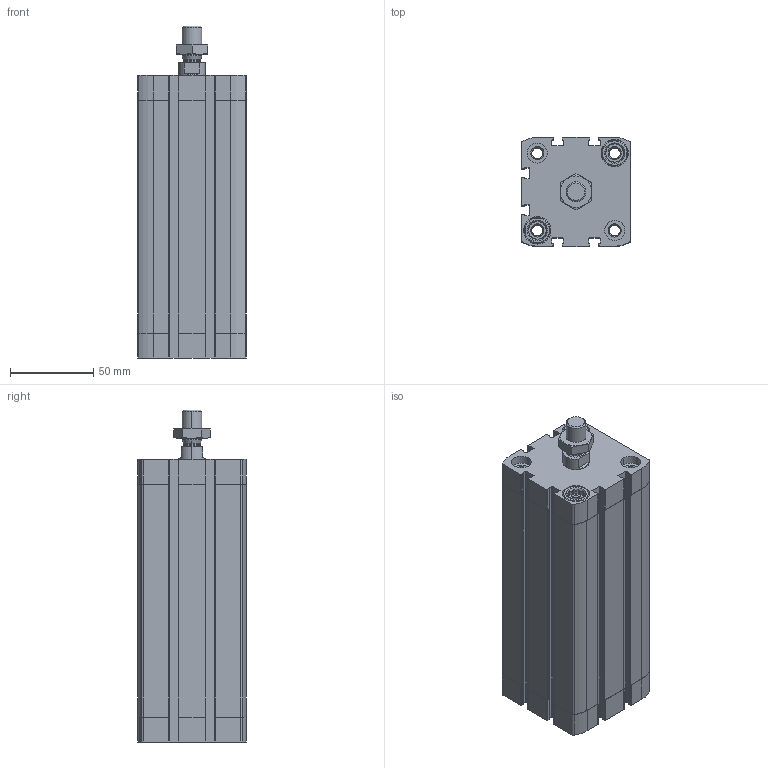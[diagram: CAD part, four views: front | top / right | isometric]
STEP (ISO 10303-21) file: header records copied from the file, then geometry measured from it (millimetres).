
FILE_DESCRIPTION (( 'STEP AP203' ), '1' );
FILE_NAME ('CCN50-125M.STEP', '2017-04-05T13:36:51', ( '' ), ( '' ), 'SwSTEP 2.0', 'SolidWorks 2016', '' );
FILE_SCHEMA (( 'CONFIG_CONTROL_DESIGN' ));
Length unit declared in the file: millimetre
Products named in the file (4): CCN50-125M; CCN-125----(Z); CCN-125_(KS); _DIN-439-B - M12x1.25(F)
Assembly tree (3 placements, depth 2):
  CCN50-125M
    CCN-125----(Z)
    CCN-125_(KS)
    _DIN-439-B - M12x1.25(F)
Bounding box: 65.5 x 65.5 x 199.7 mm (x, y, z)
Volume: 437574.2 mm3; surface area: 122648.5 mm2
Topology: 3 solids, 3 shells, 491 faces, 1318 edges, 864 vertices
Faces by surface type: plane 227, cylinder 212, cone 48, bspline 4
Entity records: 16092 total; most frequent: CARTESIAN_POINT 3139, DIRECTION 2676, ORIENTED_EDGE 2636, EDGE_CURVE 1318, AXIS2_PLACEMENT_3D 979, VERTEX_POINT 864, LINE 718, VECTOR 718
